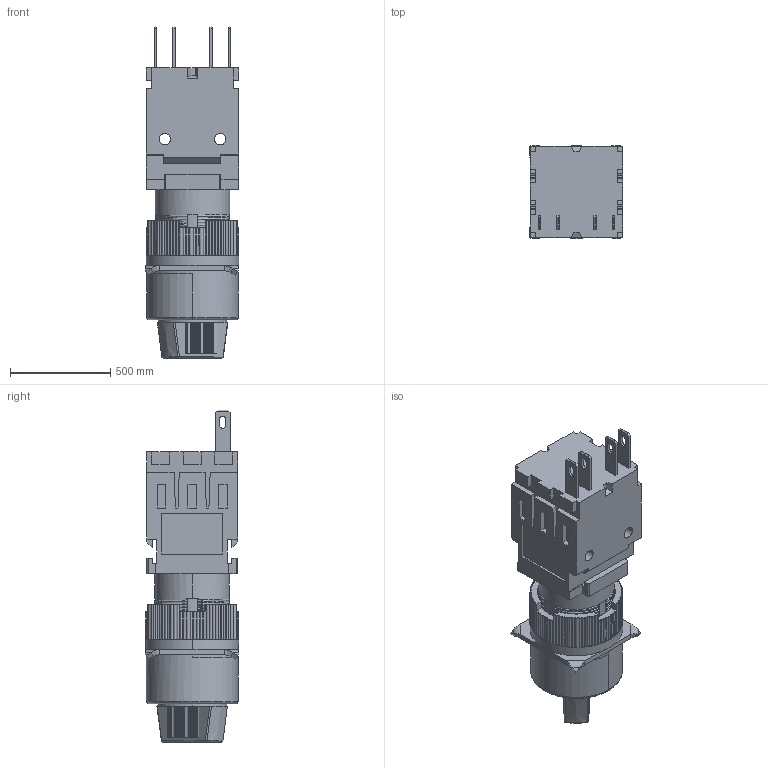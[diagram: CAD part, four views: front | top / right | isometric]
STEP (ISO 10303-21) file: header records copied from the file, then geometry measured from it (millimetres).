
FILE_DESCRIPTION((''),'2;1');
FILE_NAME('ASM0002_ASM','2016-06-03T',('Administrator'),(''),'PRO/ENGINEER BY PARAMETRIC TECHNOLOGY CORPORATION, 2012360','PRO/ENGINEER BY PARAMETRIC TECHNOLOGY CORPORATION, 2012360','');
FILE_SCHEMA(('CONFIG_CONTROL_DESIGN'));
Products named in the file (1): ASM0002_ASM
Bounding box: 467.82 x 465.73 x 1653.54 mm (x, y, z)
Volume: 219142614.3 mm3; surface area: 4286078 mm2
Topology: 1 solids, 7 shells, 1019 faces, 2848 edges, 1854 vertices
Faces by surface type: plane 488, cylinder 402, bspline 119, torus 4, sphere 4, cone 2
Entity records: 50443 total; most frequent: CARTESIAN_POINT 24927, ORIENTED_EDGE 5696, DIRECTION 4899, EDGE_CURVE 2848, VERTEX_POINT 1854, AXIS2_PLACEMENT_3D 1714, VECTOR 1471, LINE 1471
